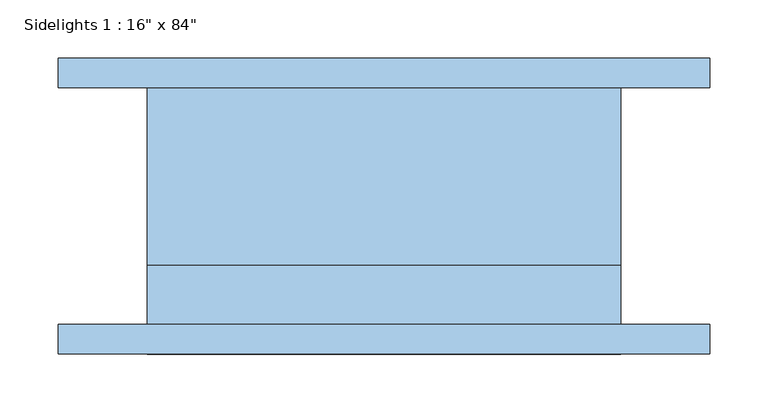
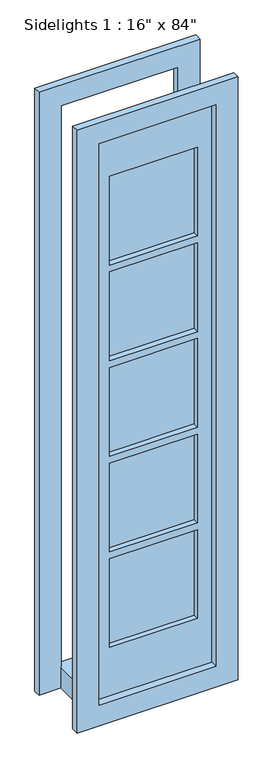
"""IFC4 building model written with IfcOpenShell, lengths in millimetres: window geometry."""

from ifc_helpers import new_model, si_unit, frame, origin, origin_with_axes, place, context, project, spatial, polyline, outline, extrude, source, transform, mapped, element, save


def window_b28cb548(model_context):
    return source(origin(), model_context, "Body", "SweptSolid", [
        extrude(outline(polyline([(0.0, 533.4), (2209.8, 533.4), (2209.8, -25.4), (0.0, -25.4), (0.0, 533.4)]), holes=[polyline([(2133.6, 50.8), (2133.6, 457.2), (76.2, 457.2), (76.2, 50.8), (2133.6, 50.8)])]), frame((0.0, -127.0, 0.0), z_axis=(0.0, 1.0, 0.0), x_axis=(0.0, 0.0, 1.0)), (0.0, 0.0, 1.0), 25.4),
        extrude(outline(polyline([(457.2, 127.0), (457.2, -50.8), (50.8, -50.8), (50.8, 127.0), (457.2, 127.0)])), origin_with_axes(), (0.0, 0.0, 1.0), 76.2),
        extrude(outline(polyline([(101.6, -82.55), (101.6, -69.85), (406.4, -69.85), (406.4, -82.55), (101.6, -82.55)])), frame((0.0, 0.0, 1656.08), z_axis=(0.0, 0.0, 1.0), x_axis=(1.0, 0.0, 0.0)), (0.0, 0.0, 1.0), 325.12),
        extrude(outline(polyline([(101.6, -82.55), (101.6, -69.85), (406.4, -69.85), (406.4, -82.55), (101.6, -82.55)])), frame((0.0, 0.0, 1305.56), z_axis=(0.0, 0.0, 1.0), x_axis=(1.0, 0.0, 0.0)), (0.0, 0.0, 1.0), 325.12),
        extrude(outline(polyline([(101.6, -82.55), (101.6, -69.85), (406.4, -69.85), (406.4, -82.55), (101.6, -82.55)])), frame((0.0, 0.0, 955.04), z_axis=(0.0, 0.0, 1.0), x_axis=(1.0, 0.0, 0.0)), (0.0, 0.0, 1.0), 325.12),
        extrude(outline(polyline([(101.6, -82.55), (101.6, -69.85), (406.4, -69.85), (406.4, -82.55), (101.6, -82.55)])), frame((0.0, 0.0, 604.52), z_axis=(0.0, 0.0, 1.0), x_axis=(1.0, 0.0, 0.0)), (0.0, 0.0, 1.0), 325.12),
        extrude(outline(polyline([(101.6, -82.55), (101.6, -69.85), (406.4, -69.85), (406.4, -82.55), (101.6, -82.55)])), frame((0.0, 0.0, 254.0), z_axis=(0.0, 0.0, 1.0), x_axis=(1.0, 0.0, 0.0)), (0.0, 0.0, 1.0), 325.12),
        extrude(outline(polyline([(2133.6, 50.8), (0.0, 50.8), (0.0, 457.2), (2133.6, 457.2), (2133.6, 50.8)]), holes=[polyline([(1981.2, 101.6), (1981.2, 406.4), (1656.08, 406.4), (1656.08, 101.6), (1981.2, 101.6)]), polyline([(1630.68, 101.6), (1630.68, 406.4), (1305.56, 406.4), (1305.56, 101.6), (1630.68, 101.6)]), polyline([(1280.16, 101.6), (1280.16, 406.4), (955.04, 406.4), (955.04, 101.6), (1280.16, 101.6)]), polyline([(929.64, 101.6), (929.64, 406.4), (604.52, 406.4), (604.52, 101.6), (929.64, 101.6)]), polyline([(579.12, 101.6), (579.12, 406.4), (254.0, 406.4), (254.0, 101.6), (579.12, 101.6)])]), frame((0.0, -101.6, 0.0), z_axis=(0.0, 1.0, 0.0), x_axis=(0.0, 0.0, 1.0)), (0.0, 0.0, 1.0), 50.8),
        extrude(outline(polyline([(0.0, -25.4), (0.0, 50.8), (2133.6, 50.8), (2133.6, 457.2), (0.0, 457.2), (0.0, 533.4), (2209.8, 533.4), (2209.8, -25.4), (0.0, -25.4)])), frame((0.0, 101.6, 0.0), z_axis=(0.0, 1.0, 0.0), x_axis=(0.0, 0.0, 1.0)), (0.0, 0.0, 1.0), 25.4),
    ])


if __name__ == "__main__":
    model = new_model("IFC4")
    model_context = context("Model", 3, world=origin())
    ifc_project = project(units=[si_unit("LENGTHUNIT", "METRE", prefix="MILLI")], contexts=[model_context])
    site = spatial("IfcSite", under=ifc_project)
    building = spatial("IfcBuilding", under=site)
    placement = place(None, origin())
    window_shape = window_b28cb548(model_context)
    element("IfcWindow", 1, ObjectType="Sidelights 1 : 16\" x 84\"", at=placement, inside=building, context=model_context, shape_type="MappedRepresentation", body=[
        mapped(window_shape, transform((0.0, 0.0, 0.0), x_axis=(1.0, 0.0, 0.0), y_axis=(0.0, 1.0, 0.0), z_axis=(0.0, 0.0, 1.0))),
    ])
    save(model, "model.ifc")
